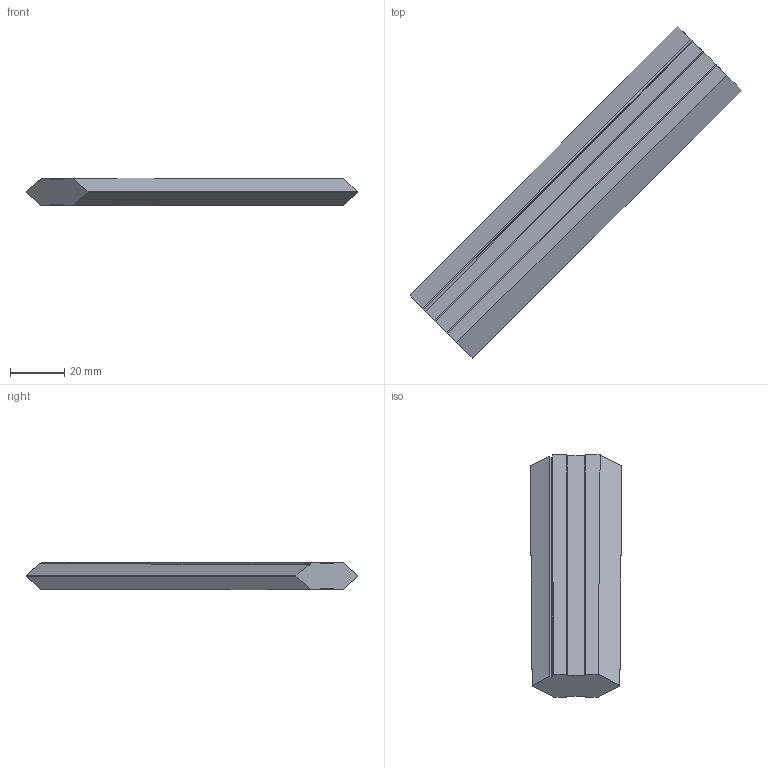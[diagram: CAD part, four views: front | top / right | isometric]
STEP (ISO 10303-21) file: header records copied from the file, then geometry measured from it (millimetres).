
FILE_DESCRIPTION(/* description */ ('STEP AP242 Edition 2','CAx-IF Rec.Pracs.---Representation and Presentation of Product Manufacturing Information (PMI)---4.0---2014-10-13','CAx-IF Rec.Pracs.---3D Tessellated Geometry---0.4---2014-09-14','2;1','CAx-IF Rec.Pracs.---User Defined Attributes---1.5---2016-08-15'),/* implementation_level */ '2;1');
FILE_NAME(/* name */ 'Part Studio 2 - Blade middle part 1',/* time_stamp */ '2026-02-06T19:17:58Z',/* author */ (''),/* organization */ (''),/* preprocessor_version */ 'ST-DEVELOPER v20',/* originating_system */ 'ONSHAPE BY PTC INC, 1.210',/* authorisation */ ' ');
FILE_SCHEMA (('AP242_MANAGED_MODEL_BASED_3D_ENGINEERING_MIM_LF { 1 0 10303 442 3 1 4 }'));
Length unit declared in the file: metre
Products named in the file (1): Blade middle part 1
Bounding box: 122.36 x 122.36 x 10.26 mm (x, y, z)
Volume: 16707.3 mm3; surface area: 18975.6 mm2
Topology: 1 solids, 1 shells, 38 faces, 105 edges, 70 vertices
Faces by surface type: plane 18, bspline 11, cylinder 9
Entity records: 1672 total; most frequent: CARTESIAN_POINT 756, ORIENTED_EDGE 210, DIRECTION 146, EDGE_CURVE 105, VERTEX_POINT 70, LINE 54, VECTOR 54, AXIS2_PLACEMENT_3D 46
